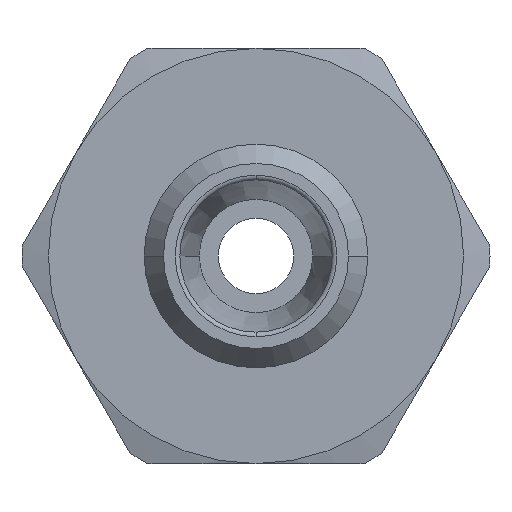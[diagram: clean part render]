
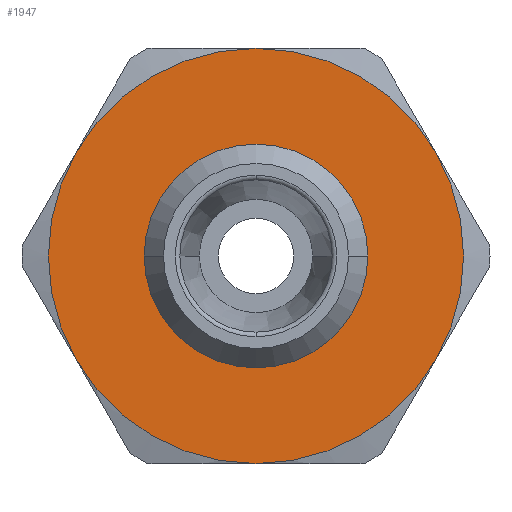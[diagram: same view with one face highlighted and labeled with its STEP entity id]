
A CAD part, left-side view. The second image highlights one B-rep face of the part: STEP entity #1947.
In plain terms, the highlighted planar face has unit normal (-1, 0, 0) as drawn and (0, 0, 1) by its records, which use the part's own axes.
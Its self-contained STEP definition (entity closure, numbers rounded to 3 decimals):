
#857=CARTESIAN_POINT('',(-5.8,0.,3.0));
#858=VERTEX_POINT('',#857);
#884=CARTESIAN_POINT('',(5.8,0.,3.0));
#885=VERTEX_POINT('',#884);
#893=CARTESIAN_POINT('',(0.,0.,3.0));
#894=DIRECTION('',(0.0,0.0,1.0));
#895=DIRECTION('',(-1.0,0.0,0.0));
#896=AXIS2_PLACEMENT_3D('',#893,#894,#895);
#897=CIRCLE('',#896,5.8);
#898=EDGE_CURVE('',#885,#858,#897,.T.);
#1827=CARTESIAN_POINT('',(0.,-5.8,3.));
#1828=VERTEX_POINT('',#1827);
#1829=CARTESIAN_POINT('',(0.,0.,3.0));
#1830=DIRECTION('',(0.0,0.0,1.0));
#1831=DIRECTION('',(-1.0,0.0,0.0));
#1832=AXIS2_PLACEMENT_3D('',#1829,#1830,#1831);
#1833=CIRCLE('',#1832,5.8);
#1834=EDGE_CURVE('',#858,#1828,#1833,.T.);
#1836=CARTESIAN_POINT('',(0.,0.,3.0));
#1837=DIRECTION('',(0.0,0.0,1.0));
#1838=DIRECTION('',(-1.0,0.0,0.0));
#1839=AXIS2_PLACEMENT_3D('',#1836,#1837,#1838);
#1840=CIRCLE('',#1839,5.8);
#1841=EDGE_CURVE('',#1828,#885,#1840,.T.);
#1881=CARTESIAN_POINT('',(0.,0.,3.0));
#1882=DIRECTION('',(0.0,0.0,1.0));
#1883=DIRECTION('',(1.0,0.0,0.0));
#1884=AXIS2_PLACEMENT_3D('',#1881,#1882,#1883);
#1885=PLANE('',#1884);
#1886=CARTESIAN_POINT('',(5.5,-9.526,3.));
#1887=VERTEX_POINT('',#1886);
#1888=CARTESIAN_POINT('',(11.,0.0,3.));
#1889=VERTEX_POINT('',#1888);
#1890=CARTESIAN_POINT('',(0.,0.0,3.0));
#1891=DIRECTION('',(0.0,0.0,1.0));
#1892=DIRECTION('',(1.0,0.0,0.0));
#1893=AXIS2_PLACEMENT_3D('',#1890,#1891,#1892);
#1894=CIRCLE('',#1893,11.);
#1895=EDGE_CURVE('',#1887,#1889,#1894,.T.);
#1896=ORIENTED_EDGE('',*,*,#1895,.T.);
#1897=CARTESIAN_POINT('',(5.5,9.526,3.));
#1898=VERTEX_POINT('',#1897);
#1899=CARTESIAN_POINT('',(0.,0.0,3.0));
#1900=DIRECTION('',(0.0,0.0,1.0));
#1901=DIRECTION('',(1.0,0.0,0.0));
#1902=AXIS2_PLACEMENT_3D('',#1899,#1900,#1901);
#1903=CIRCLE('',#1902,11.);
#1904=EDGE_CURVE('',#1889,#1898,#1903,.T.);
#1905=ORIENTED_EDGE('',*,*,#1904,.T.);
#1906=CARTESIAN_POINT('',(-5.5,9.526,3.));
#1907=VERTEX_POINT('',#1906);
#1908=CARTESIAN_POINT('',(0.,0.0,3.0));
#1909=DIRECTION('',(0.0,0.0,1.0));
#1910=DIRECTION('',(1.0,0.0,0.0));
#1911=AXIS2_PLACEMENT_3D('',#1908,#1909,#1910);
#1912=CIRCLE('',#1911,11.);
#1913=EDGE_CURVE('',#1898,#1907,#1912,.T.);
#1914=ORIENTED_EDGE('',*,*,#1913,.T.);
#1915=CARTESIAN_POINT('',(-11.0,0.,3.));
#1916=VERTEX_POINT('',#1915);
#1917=CARTESIAN_POINT('',(0.,0.0,3.0));
#1918=DIRECTION('',(0.0,0.0,1.0));
#1919=DIRECTION('',(1.0,0.0,0.0));
#1920=AXIS2_PLACEMENT_3D('',#1917,#1918,#1919);
#1921=CIRCLE('',#1920,11.);
#1922=EDGE_CURVE('',#1907,#1916,#1921,.T.);
#1923=ORIENTED_EDGE('',*,*,#1922,.T.);
#1924=CARTESIAN_POINT('',(-5.5,-9.526,3.));
#1925=VERTEX_POINT('',#1924);
#1926=CARTESIAN_POINT('',(0.,0.0,3.0));
#1927=DIRECTION('',(0.0,0.0,1.0));
#1928=DIRECTION('',(1.0,0.0,0.0));
#1929=AXIS2_PLACEMENT_3D('',#1926,#1927,#1928);
#1930=CIRCLE('',#1929,11.);
#1931=EDGE_CURVE('',#1916,#1925,#1930,.T.);
#1932=ORIENTED_EDGE('',*,*,#1931,.T.);
#1933=CARTESIAN_POINT('',(0.,0.0,3.0));
#1934=DIRECTION('',(0.0,0.0,1.0));
#1935=DIRECTION('',(1.0,0.0,0.0));
#1936=AXIS2_PLACEMENT_3D('',#1933,#1934,#1935);
#1937=CIRCLE('',#1936,11.);
#1938=EDGE_CURVE('',#1925,#1887,#1937,.T.);
#1939=ORIENTED_EDGE('',*,*,#1938,.T.);
#1940=EDGE_LOOP('',(#1896,#1905,#1914,#1923,#1932,#1939));
#1941=FACE_OUTER_BOUND('',#1940,.T.);
#1942=ORIENTED_EDGE('',*,*,#1841,.F.);
#1943=ORIENTED_EDGE('',*,*,#1834,.F.);
#1944=ORIENTED_EDGE('',*,*,#898,.F.);
#1945=EDGE_LOOP('',(#1942,#1943,#1944));
#1946=FACE_BOUND('',#1945,.T.);
#1947=ADVANCED_FACE('',(#1941,#1946),#1885,.T.);
